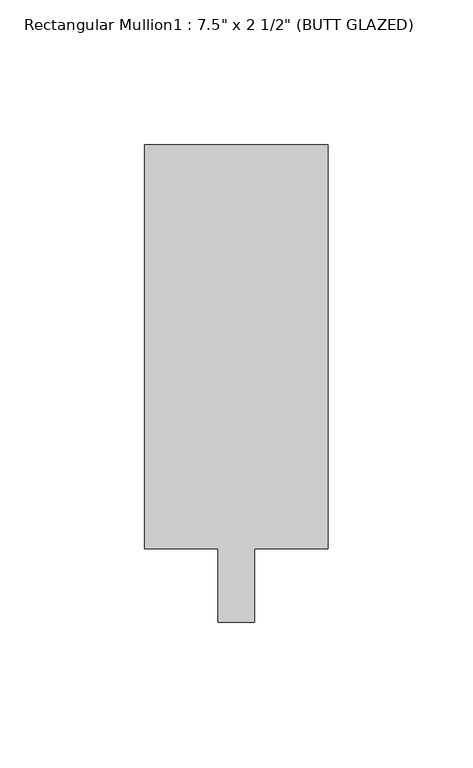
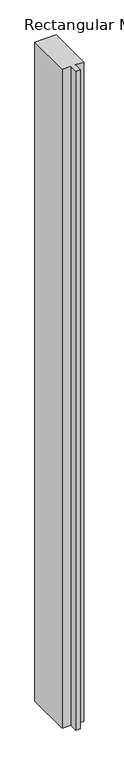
"""IFC4 building model written with IfcOpenShell, lengths in millimetres: member geometry."""

import ifcopenshell
import ifcopenshell.guid

model = None  # the IFC model being written
_history = None  # IfcOwnerHistory: only IFC2X3 demands one
_inside = {}  # id of a spatial element -> (the spatial element, [elements in it])
_under = {}  # id of a project, library or spatial element -> (it, [spatial elements below it])
_declared = {}  # id of a project -> (the project, [libraries it declares])
_typed = {}  # id of a type object -> (the type object, [elements of that type])
_made_of = {}  # id of a material, layer set ... -> (it, [elements and type objects made of it])


def new_model(schema):
    """Start an empty IFC model of exactly this schema.

    Asked for "IFC4X3", IfcOpenShell would pick the latest addendum, in which some entities
    have other attributes; the version numbers below select the first issue.
    IFC2X3 requires an IfcOwnerHistory on every rooted entity: one is made here for all.
    """
    global model, _history
    if schema == "IFC4X3":
        model = ifcopenshell.file(schema_version=(4, 3, 0, 0))
    else:
        model = ifcopenshell.file(schema=schema)
    _inside.clear()
    _under.clear()
    _declared.clear()
    _typed.clear()
    _made_of.clear()
    _history = None
    if model.schema == "IFC2X3":
        org = make("IfcOrganization", Name="unknown")
        user = make(
            "IfcPersonAndOrganization",
            ThePerson=make("IfcPerson", FamilyName="unknown"),
            TheOrganization=org,
        )
        app = make(
            "IfcApplication",
            ApplicationDeveloper=org,
            Version="unknown",
            ApplicationFullName="unknown",
            ApplicationIdentifier="unknown",
        )
        _history = make(
            "IfcOwnerHistory",
            OwningUser=user,
            OwningApplication=app,
            ChangeAction="ADDED",
            CreationDate=0,
        )
    return model


def make(cls, **values):
    """One entity of the class cls with the attributes given. An attribute that is None is left unset."""
    return model.create_entity(
        cls, **{name: value for name, value in values.items() if value is not None}
    )


def rooted(cls, **values):
    """An entity with a GlobalId (a new one), such as an element, a storey or a relation."""
    return make(cls, GlobalId=ifcopenshell.guid.new(), OwnerHistory=_history, **values)


def si_unit(unit_type, name, prefix=None):
    """IfcSIUnit, for example si_unit("LENGTHUNIT", "METRE", prefix="MILLI")."""
    return make("IfcSIUnit", UnitType=unit_type, Prefix=prefix, Name=name)


def assignment(units):
    """IfcUnitAssignment: the units of a project."""
    return None if units is None else make("IfcUnitAssignment", Units=units)


def point(xyz):
    """IfcCartesianPoint."""
    return None if xyz is None else make("IfcCartesianPoint", Coordinates=xyz)


def direction(xyz):
    """IfcDirection."""
    return None if xyz is None else make("IfcDirection", DirectionRatios=xyz)


def frame(location, z_axis=None, x_axis=None):
    """IfcAxis2Placement3D, a coordinate frame: its origin and axes. An axis left out is left unset."""
    return make(
        "IfcAxis2Placement3D",
        Location=point(location),
        Axis=direction(z_axis),
        RefDirection=direction(x_axis),
    )


def origin():
    """The frame at (0, 0, 0) with its axes left unset."""
    return frame((0.0, 0.0, 0.0))


def place(relative_to, where):
    """IfcLocalPlacement: puts the frame where relative to a parent placement (None: the world)."""
    return make(
        "IfcLocalPlacement", PlacementRelTo=relative_to, RelativePlacement=where
    )


def context(
    kind, dimensions, precision=None, world=None, true_north=None, identifier=None
):
    """IfcGeometricRepresentationContext, for example the 3D "Model" context."""
    return make(
        "IfcGeometricRepresentationContext",
        ContextIdentifier=identifier,
        ContextType=kind,
        CoordinateSpaceDimension=dimensions,
        Precision=precision,
        WorldCoordinateSystem=world,
        TrueNorth=true_north,
    )


def project(units=None, contexts=None):
    """IfcProject with its units and contexts."""
    return rooted(
        "IfcProject",
        Name="project",
        RepresentationContexts=contexts,
        UnitsInContext=assignment(units),
    )


def spatial(cls, under=None, at=None, **own):
    """A site, building, storey or space (cls), placed at a placement, below another one or the project."""
    s = rooted(cls, ObjectPlacement=at, **own)
    if under is not None:
        _under.setdefault(under.id(), (under, []))[1].append(s)
    return s


def polyline(points):
    """IfcPolyline through the points."""
    return make("IfcPolyline", Points=[point(p) for p in points])


def outline(outer, holes=None, kind="AREA"):
    """IfcArbitraryClosedProfileDef: a profile drawn as a closed curve; with holes, ...WithVoids."""
    if holes is None:
        return make("IfcArbitraryClosedProfileDef", ProfileType=kind, OuterCurve=outer)
    return make(
        "IfcArbitraryProfileDefWithVoids",
        ProfileType=kind,
        OuterCurve=outer,
        InnerCurves=holes,
    )


def extrude(swept, where, along, depth):
    """IfcExtrudedAreaSolid: the profile swept, set in the frame where, extruded along a direction by depth."""
    return make(
        "IfcExtrudedAreaSolid",
        SweptArea=swept,
        Position=where,
        ExtrudedDirection=direction(along),
        Depth=depth,
    )


def shape(context_of_items, identifier, shape_type, items):
    """IfcShapeRepresentation: the items that make up one representation, for example the "Body"."""
    return make(
        "IfcShapeRepresentation",
        ContextOfItems=context_of_items,
        RepresentationIdentifier=identifier,
        RepresentationType=shape_type,
        Items=items,
    )


def source(mapping_origin, context_of_items, identifier, shape_type, items):
    """IfcRepresentationMap: a shape defined once, which mapped items show again and again."""
    return make(
        "IfcRepresentationMap",
        MappingOrigin=mapping_origin,
        MappedRepresentation=shape(context_of_items, identifier, shape_type, items),
    )


def transform(
    local_origin,
    x_axis=None,
    y_axis=None,
    z_axis=None,
    scale=None,
    scale2=None,
    scale3=None,
    uniform=True,
):
    """IfcCartesianTransformationOperator3D, or its non-uniform kind. x_axis, y_axis, z_axis: its Axis1, 2, 3."""
    if uniform:
        return make(
            "IfcCartesianTransformationOperator3D",
            Axis1=direction(x_axis),
            Axis2=direction(y_axis),
            LocalOrigin=point(local_origin),
            Scale=scale,
            Axis3=direction(z_axis),
        )
    return make(
        "IfcCartesianTransformationOperator3DnonUniform",
        Axis1=direction(x_axis),
        Axis2=direction(y_axis),
        LocalOrigin=point(local_origin),
        Scale=scale,
        Axis3=direction(z_axis),
        Scale2=scale2,
        Scale3=scale3,
    )


def mapped(mapping_source, mapping_target):
    """IfcMappedItem: shows the shape of a source again, moved by a transform."""
    return make(
        "IfcMappedItem", MappingSource=mapping_source, MappingTarget=mapping_target
    )


def made_of(thing, what):
    """Note that an element or type object is made of a material, layer set ...; save() writes the relation."""
    if what is not None:
        _made_of.setdefault(what.id(), (what, []))[1].append(thing)
    return thing


def element(
    cls,
    number,
    at=None,
    inside=None,
    cuts=None,
    type_object=None,
    material=None,
    context=None,
    identifier="Body",
    shape_type=None,
    held_by="IfcProductDefinitionShape",
    body=None,
    shapes=None,
    **own,
):
    """One element of the class cls, such as IfcWall. Its Tag is "e" and its number.

    at: its placement. inside: the storey or other place that contains it. cuts: it is an
    opening in that element (IfcRelVoidsElement). A single representation is given by context,
    identifier, shape_type and body (its items); several are given by shapes. held_by: the class
    of the entity that holds the representations. save() writes the other relations.
    """
    e = rooted(cls, Tag="e%d" % number, ObjectPlacement=at, **own)
    if body is not None:
        shapes = [shape(context, identifier, shape_type, body)]
    if shapes is not None:
        e.Representation = make(held_by, Representations=shapes)
    if inside is not None:
        _inside.setdefault(inside.id(), (inside, []))[1].append(e)
    if cuts is not None:
        rooted(
            "IfcRelVoidsElement", RelatingBuildingElement=cuts, RelatedOpeningElement=e
        )
    if type_object is not None:
        _typed.setdefault(type_object.id(), (type_object, []))[1].append(e)
    return made_of(e, material)


def aggregate(whole, parts):
    """IfcRelAggregates: a whole, such as a stair, and the parts it consists of."""
    return rooted("IfcRelAggregates", RelatingObject=whole, RelatedObjects=parts)


def save(model, path):
    """Write the relations noted so far, then the file.

    IfcRelAggregates (storeys below a building ...), IfcRelContainedInSpatialStructure (elements
    in a storey), IfcRelDefinesByType, IfcRelAssociatesMaterial and IfcRelDeclares: one each for
    every whole, place, type object, material and project.
    """
    for whole, parts in _under.values():
        aggregate(whole, parts)
    for where, things in _inside.values():
        rooted(
            "IfcRelContainedInSpatialStructure",
            RelatedElements=things,
            RelatingStructure=where,
        )
    for kind, things in _typed.values():
        rooted("IfcRelDefinesByType", RelatedObjects=things, RelatingType=kind)
    for what, things in _made_of.values():
        rooted("IfcRelAssociatesMaterial", RelatedObjects=things, RelatingMaterial=what)
    for by, libraries in _declared.values():
        rooted("IfcRelDeclares", RelatingContext=by, RelatedDefinitions=libraries)
    model.write(path)


def member_abbe57e8(model_context):
    return source(origin(), model_context, "Body", "SweptSolid", [
        extrude(outline(polyline([(31.75, 165.1), (31.75, 25.4), (6.35, 25.4), (6.35, 0.0), (-6.35, 0.0), (-6.35, 25.4), (-31.75, 25.4), (-31.75, 165.1), (31.75, 165.1)])), frame((0.0, 0.0, -2057.4), z_axis=(0.0, 0.0, 1.0), x_axis=(1.0, 0.0, 0.0)), (0.0, 0.0, 1.0), 2057.4),
    ])


if __name__ == "__main__":
    model = new_model("IFC4")
    model_context = context("Model", 3, world=origin())
    ifc_project = project(units=[si_unit("LENGTHUNIT", "METRE", prefix="MILLI")], contexts=[model_context])
    site = spatial("IfcSite", under=ifc_project)
    building = spatial("IfcBuilding", under=site)
    placement = place(None, origin())
    member_shape = member_abbe57e8(model_context)
    element("IfcMember", 1, ObjectType="Rectangular Mullion1 : 7.5\" x 2 1/2\" (BUTT GLAZED)", at=placement, inside=building, context=model_context, shape_type="MappedRepresentation", body=[
        mapped(member_shape, transform((0.0, 0.0, 0.0), x_axis=(1.0, 0.0, 0.0), y_axis=(0.0, 1.0, 0.0), z_axis=(0.0, 0.0, 1.0))),
    ])
    save(model, "model.ifc")
